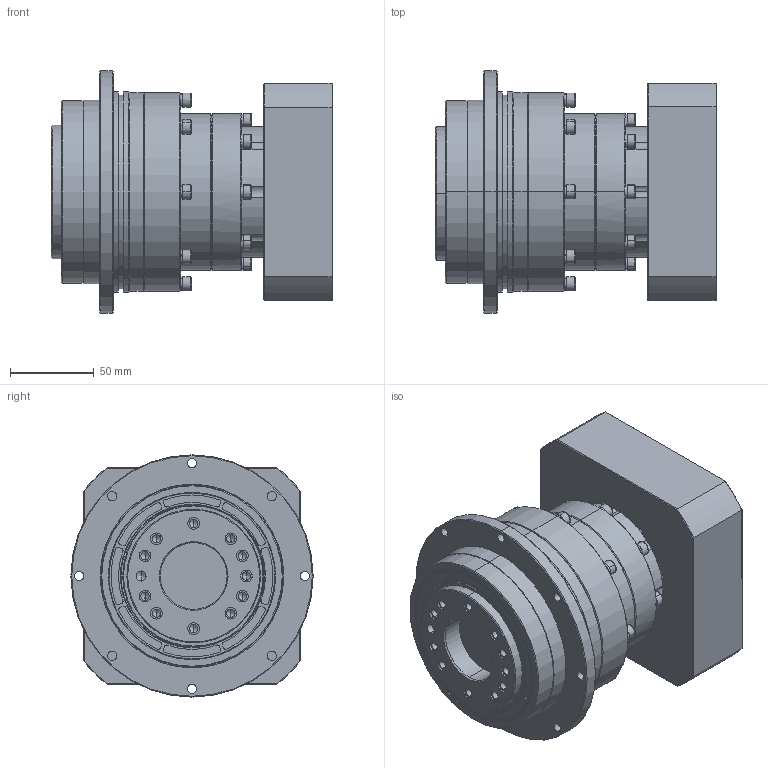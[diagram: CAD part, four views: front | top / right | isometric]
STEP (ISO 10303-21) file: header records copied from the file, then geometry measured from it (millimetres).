
FILE_DESCRIPTION (( 'STEP AP214' ), '1' );
FILE_NAME ('VRT-110-L2-P1 22-110-145-M8.STEP', '2024-02-26T06:46:18', ( '微软用户' ), ( '微软中国' ), 'SwSTEP 2.0', 'SolidWorks 2021', '' );
FILE_SCHEMA (( 'AUTOMOTIVE_DESIGN' ));
Length unit declared in the file: millimetre
Products named in the file (15): hexagon socket head cap screws gb_GB_FASTENER_SCREWS_HSHCS M6X20-N; hexagon socket head cap screws gb_GB_FASTENER_SCREWS_HSHCS M5X35-N; 二级齿圈VRT110 外形图; hex socket set screws with flat point gb_GB_FASTENER_SCREWS_HSFP M12X12-N; 標杶PAB90 D24; 笢潔楊擘VRT90俋倛芞; 输入轴PAB090D22外形图; 一级齿圈VRT110外形图; hexagon socket head cap screws gb_GB_FASTENER_SCREWS_HSHCS M5X30-N; 蚐猾 85x100x10; VRT-110-L2-P1 22-110-145-M8; 萇儂楊擘PAB090 D110-M8-145F130H39.5; 一级输出轴 VRT110 外形图; spring lock washers--normal type gb_GB_FASTENER_WASHER_SW 5; hexagon socket head cap screws gb_GB_FASTENER_SCREWS_HSHCS M5X20-N
Assembly tree (52 placements, depth 2):
  VRT-110-L2-P1 22-110-145-M8
    一级齿圈VRT110外形图
    一级输出轴 VRT110 外形图
    二级齿圈VRT110 外形图
    输入轴PAB090D22外形图
    笢潔楊擘VRT90俋倛芞
    萇儂楊擘PAB090 D110-M8-145F130H39.5
    標杶PAB90 D24
    蚐猾 85x100x10
    hex socket set screws with flat point gb_GB_FASTENER_SCREWS_HSFP M12X12-N
    hexagon socket head cap screws gb_GB_FASTENER_SCREWS_HSHCS M6X20-N
    hexagon socket head cap screws gb_GB_FASTENER_SCREWS_HSHCS M5X35-N  x8
    hexagon socket head cap screws gb_GB_FASTENER_SCREWS_HSHCS M5X30-N  x8
    hexagon socket head cap screws gb_GB_FASTENER_SCREWS_HSHCS M5X20-N  x6
    spring lock washers--normal type gb_GB_FASTENER_WASHER_SW 5  x20
Bounding box: 168.5 x 145 x 145 mm (x, y, z)
Volume: 1512479.7 mm3; surface area: 261853.4 mm2
Topology: 52 solids, 52 shells, 1451 faces, 3483 edges, 2128 vertices
Faces by surface type: plane 588, cylinder 545, cone 258, bspline 60
Entity records: 33407 total; most frequent: CARTESIAN_POINT 4940, DIRECTION 4355, ORIENTED_EDGE 3746, EDGE_CURVE 1873, AXIS2_PLACEMENT_3D 1770, VERTEX_POINT 1197, CIRCLE 951, EDGE_LOOP 940
